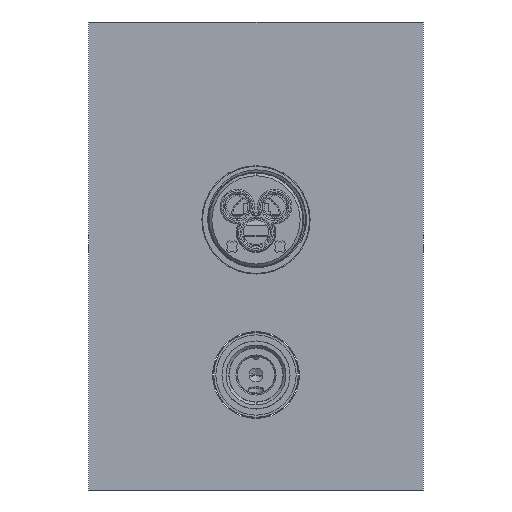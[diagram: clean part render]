
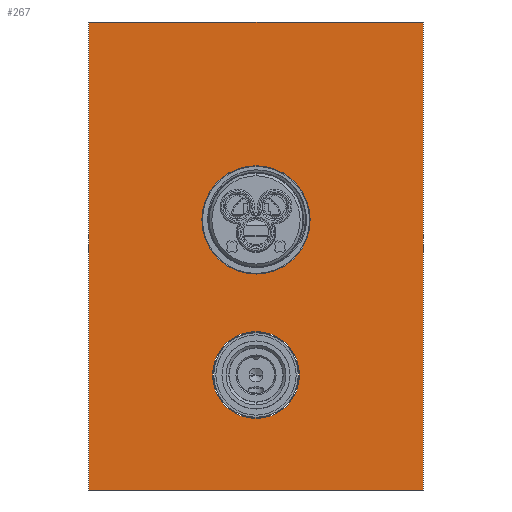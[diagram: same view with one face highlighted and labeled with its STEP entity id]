
A CAD part, front view. The second image highlights one B-rep face of the part: STEP entity #267.
In plain terms, the highlighted planar face has unit normal (0, -1, 0).
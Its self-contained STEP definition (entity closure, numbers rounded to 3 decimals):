
#63=DIRECTION('',(0.,0.,1.));
#64=VECTOR('',#63,175.);
#65=CARTESIAN_POINT('',(-62.5,0.,-80.));
#66=LINE('',#65,#64);
#67=DIRECTION('',(1.,0.,0.));
#68=VECTOR('',#67,125.);
#69=CARTESIAN_POINT('',(-62.5,0.,95.));
#70=LINE('',#69,#68);
#71=DIRECTION('',(0.,0.,-1.));
#72=VECTOR('',#71,175.);
#73=CARTESIAN_POINT('',(62.5,0.,95.));
#74=LINE('',#73,#72);
#75=DIRECTION('',(-1.,0.,0.));
#76=VECTOR('',#75,125.);
#77=CARTESIAN_POINT('',(62.5,0.,-80.));
#78=LINE('',#77,#76);
#79=CARTESIAN_POINT('',(0.,0.,-37.));
#80=DIRECTION('',(0.,1.,0.));
#81=DIRECTION('',(1.,0.,0.));
#82=AXIS2_PLACEMENT_3D('',#79,#80,#81);
#84=CARTESIAN_POINT('',(0.,0.,-37.));
#85=DIRECTION('',(0.,1.,0.));
#86=DIRECTION('',(-1.,0.,0.));
#87=AXIS2_PLACEMENT_3D('',#84,#85,#86);
#89=CARTESIAN_POINT('',(0.,0.,21.));
#90=DIRECTION('',(0.,1.,0.));
#91=DIRECTION('',(1.,0.,0.));
#92=AXIS2_PLACEMENT_3D('',#89,#90,#91);
#94=CARTESIAN_POINT('',(0.,0.,21.));
#95=DIRECTION('',(0.,1.,0.));
#96=DIRECTION('',(-1.,0.,0.));
#97=AXIS2_PLACEMENT_3D('',#94,#95,#96);
#119=CARTESIAN_POINT('',(-62.5,0.,-80.));
#120=CARTESIAN_POINT('',(-62.5,0.,95.));
#121=VERTEX_POINT('',#119);
#122=VERTEX_POINT('',#120);
#123=CARTESIAN_POINT('',(62.5,0.,95.));
#124=CARTESIAN_POINT('',(62.5,0.,-80.));
#125=VERTEX_POINT('',#123);
#126=VERTEX_POINT('',#124);
#131=CARTESIAN_POINT('',(16.25,0.,-37.));
#132=CARTESIAN_POINT('',(-16.25,0.,-37.));
#133=VERTEX_POINT('',#131);
#134=VERTEX_POINT('',#132);
#135=CARTESIAN_POINT('',(20.25,0.,21.));
#136=CARTESIAN_POINT('',(-20.25,0.,21.));
#137=VERTEX_POINT('',#135);
#138=VERTEX_POINT('',#136);
#243=CARTESIAN_POINT('',(0.,0.,0.));
#244=DIRECTION('',(0.,1.,0.));
#245=DIRECTION('',(1.,0.,0.));
#246=AXIS2_PLACEMENT_3D('',#243,#244,#245);
#247=PLANE('',#246);
#249=ORIENTED_EDGE('',*,*,#248,.T.);
#250=ORIENTED_EDGE('',*,*,#222,.T.);
#251=ORIENTED_EDGE('',*,*,#237,.T.);
#252=ORIENTED_EDGE('',*,*,#166,.T.);
#253=EDGE_LOOP('',(#249,#250,#251,#252));
#254=FACE_OUTER_BOUND('',#253,.F.);
#256=ORIENTED_EDGE('',*,*,#255,.F.);
#258=ORIENTED_EDGE('',*,*,#257,.F.);
#259=EDGE_LOOP('',(#256,#258));
#260=FACE_BOUND('',#259,.F.);
#262=ORIENTED_EDGE('',*,*,#261,.F.);
#264=ORIENTED_EDGE('',*,*,#263,.F.);
#265=EDGE_LOOP('',(#262,#264));
#266=FACE_BOUND('',#265,.F.);
#267=ADVANCED_FACE('',(#254,#260,#266),#247,.F.);
#83=CIRCLE('',#82,16.25);
#88=CIRCLE('',#87,16.25);
#93=CIRCLE('',#92,20.25);
#98=CIRCLE('',#97,20.25);
#166=EDGE_CURVE('',#126,#121,#78,.T.);
#222=EDGE_CURVE('',#122,#125,#70,.T.);
#237=EDGE_CURVE('',#125,#126,#74,.T.);
#248=EDGE_CURVE('',#121,#122,#66,.T.);
#255=EDGE_CURVE('',#133,#134,#83,.T.);
#257=EDGE_CURVE('',#134,#133,#88,.T.);
#261=EDGE_CURVE('',#137,#138,#93,.T.);
#263=EDGE_CURVE('',#138,#137,#98,.T.);
